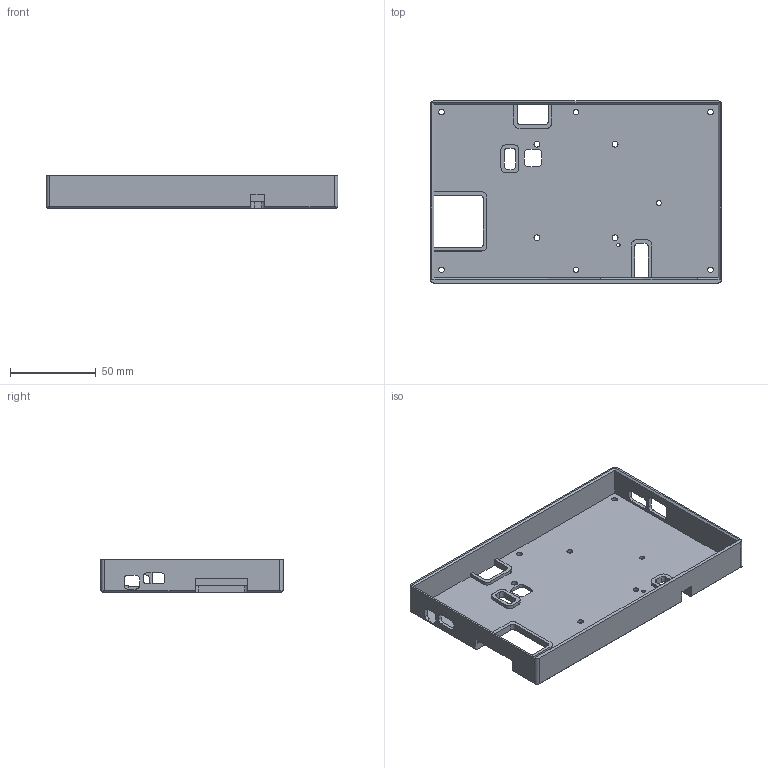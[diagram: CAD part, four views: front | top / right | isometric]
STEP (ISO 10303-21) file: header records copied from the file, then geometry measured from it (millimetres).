
FILE_DESCRIPTION(('SolidCraft model'),'2;1');
FILE_NAME('Case DuetScreen.step','',(''),(''),'SolidCraft','SolidCraft','');
FILE_SCHEMA(('AP242_MANAGED_MODEL_BASED_3D_ENGINEERING_MIM_LF { 1 0 10303 442 1 1 4 }'));
Length unit declared in the file: millimetre
Products named in the file (1): Case DuetScreen
Bounding box: 170 x 106.2 x 19.2 mm (x, y, z)
Volume: 53408.2 mm3; surface area: 52949.9 mm2
Topology: 1 solids, 1 shells, 138 faces, 416 edges, 276 vertices
Faces by surface type: plane 82, cylinder 56
Full cylindrical faces by diameter (mm): 2 x1, 3 x1, 3.25 x6, 3.4 x4
Entity records: 7057 total; most frequent: CARTESIAN_POINT 2053, ORIENTED_EDGE 832, PCURVE 604, DEFINITIONAL_REPRESENTATION 529, B_SPLINE_CURVE_WITH_KNOTS 453, EDGE_CURVE 416, SURFACE_CURVE 404, VERTEX_POINT 276
